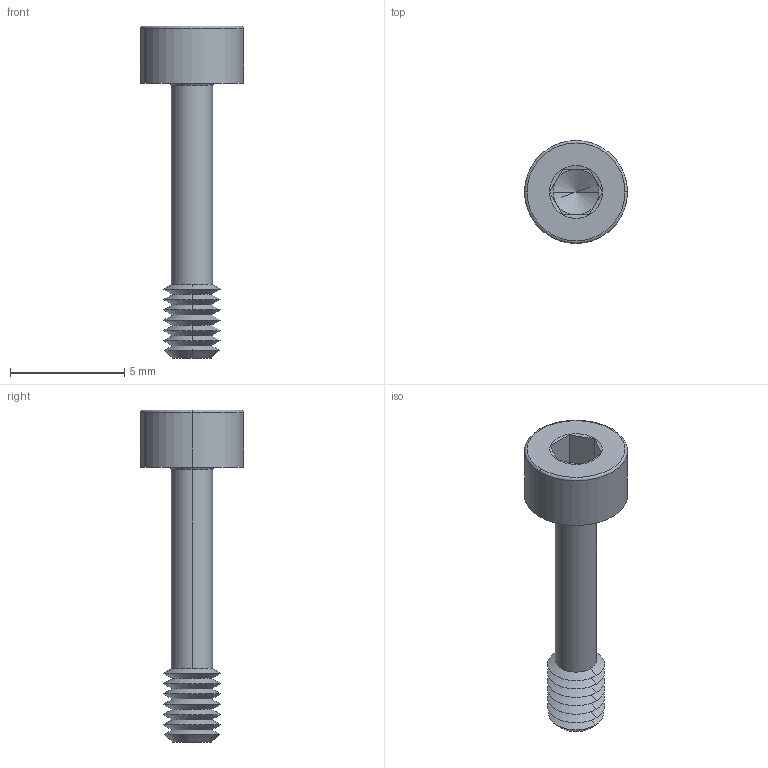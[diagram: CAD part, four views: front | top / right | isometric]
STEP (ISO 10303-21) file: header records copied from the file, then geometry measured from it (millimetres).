
FILE_DESCRIPTION (( 'STEP AP203' ), '1' );
FILE_NAME ('P0154.025-012-BL.step', '2024-06-17T11:21:47', ( '' ), ( '' ), 'SwSTEP 2.0', 'SolidWorks 2019', '' );
FILE_SCHEMA (( 'CONFIG_CONTROL_DESIGN' ));
Length unit declared in the file: millimetre
Products named in the file (1): P0154.025-012-BL
Bounding box: 4.5 x 4.5 x 14.5 mm (x, y, z)
Volume: 65.9 mm3; surface area: 171.1 mm2
Topology: 1 solids, 1 shells, 59 faces, 120 edges, 63 vertices
Faces by surface type: cone 36, plane 15, torus 4, cylinder 4
Entity records: 1587 total; most frequent: DIRECTION 292, CARTESIAN_POINT 267, ORIENTED_EDGE 236, AXIS2_PLACEMENT_3D 120, EDGE_CURVE 118, VERTEX_POINT 63, EDGE_LOOP 61, CIRCLE 60
